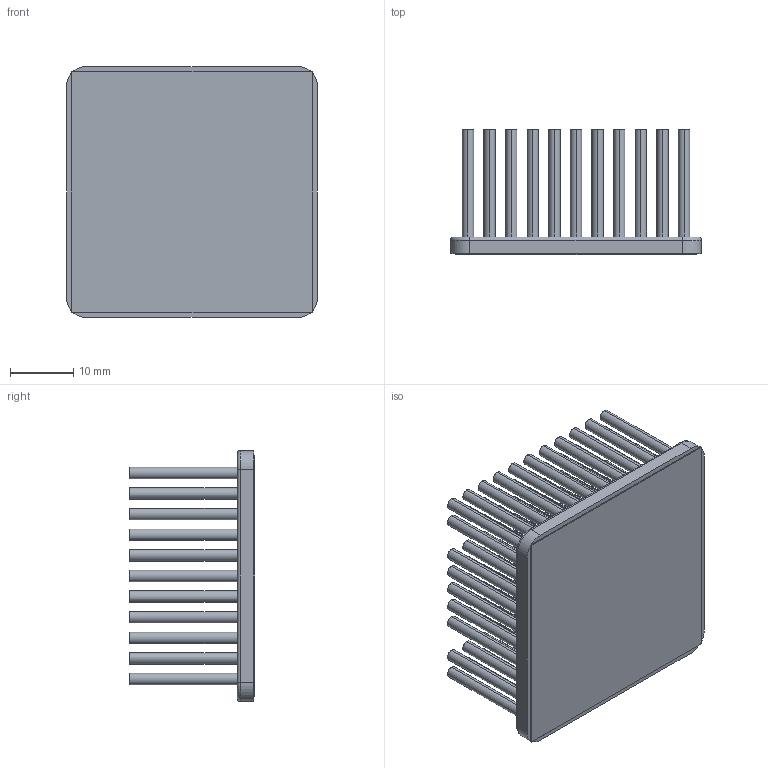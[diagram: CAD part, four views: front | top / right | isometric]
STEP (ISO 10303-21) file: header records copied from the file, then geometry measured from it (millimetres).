
FILE_DESCRIPTION (( 'STEP AP214' ), '1' );
FILE_NAME ('INM40002-20PCU-2.6.STEP', '2023-02-27T17:34:07', ( '' ), ( '' ), 'SwSTEP 2.0', 'SolidWorks 2020', '' );
FILE_SCHEMA (( 'AUTOMOTIVE_DESIGN' ));
Length unit declared in the file: inch
Products named in the file (1): INM40002-20PCU-2.6
Bounding box: 39.6 x 19.73 x 39.6 mm (x, y, z)
Volume: 9120.7 mm3; surface area: 17256.6 mm2
Topology: 2 solids, 2 shells, 363 faces, 730 edges, 484 vertices
Faces by surface type: cylinder 234, plane 125, torus 4
Entity records: 14462 total; most frequent: DIRECTION 1930, CARTESIAN_POINT 1578, ORIENTED_EDGE 1460, AXIS2_PLACEMENT_3D 836, EDGE_CURVE 730, VERTEX_POINT 484, EDGE_LOOP 476, CIRCLE 472
